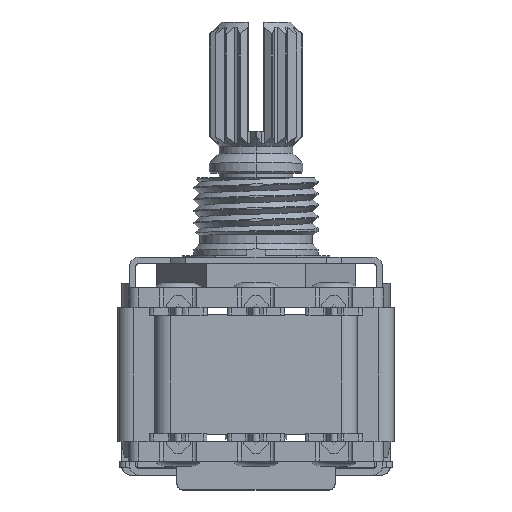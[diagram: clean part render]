
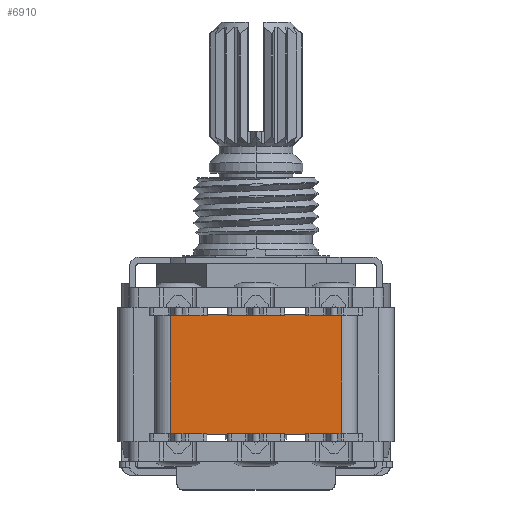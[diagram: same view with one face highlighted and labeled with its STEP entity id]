
A CAD part, top view. The second image highlights one B-rep face of the part: STEP entity #6910.
In plain terms, the highlighted planar face has unit normal (0, 0, 1).
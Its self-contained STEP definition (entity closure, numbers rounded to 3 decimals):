
#94 = DIRECTION ( 'NONE',  ( 0., 0., 1. ) ) ;
#1881 = CARTESIAN_POINT ( 'NONE',  ( 5.512, -0.79, 8.763 ) ) ;
#1953 = VECTOR ( 'NONE', #14270, 1000. ) ;
#3152 = ORIENTED_EDGE ( 'NONE', *, *, #10917, .T. ) ;
#3287 = EDGE_CURVE ( 'NONE', #13411, #14534, #17035, .T. ) ;
#3456 = VECTOR ( 'NONE', #8907, 1000. ) ;
#3533 = CARTESIAN_POINT ( 'NONE',  ( -5.512, -4.48, 8.763 ) ) ;
#3842 = LINE ( 'NONE', #1881, #3456 ) ;
#4016 = VECTOR ( 'NONE', #11899, 1000. ) ;
#4679 = VERTEX_POINT ( 'NONE', #13102 ) ;
#5514 = AXIS2_PLACEMENT_3D ( 'NONE', #22501, #94, #10594 ) ;
#6197 = ORIENTED_EDGE ( 'NONE', *, *, #18905, .F. ) ;
#6910 = ADVANCED_FACE ( 'NONE', ( #15666 ), #10490, .T. ) ;
#7771 = ORIENTED_EDGE ( 'NONE', *, *, #22349, .F. ) ;
#8907 = DIRECTION ( 'NONE',  ( 0., -1., 0. ) ) ;
#10490 = PLANE ( 'NONE',  #5514 ) ;
#10521 = ORIENTED_EDGE ( 'NONE', *, *, #3287, .T. ) ;
#10594 = DIRECTION ( 'NONE',  ( 1., 0., 0. ) ) ;
#10868 = VECTOR ( 'NONE', #20381, 1000. ) ;
#10917 = EDGE_CURVE ( 'NONE', #4679, #13411, #11435, .T. ) ;
#11435 = LINE ( 'NONE', #22511, #4016 ) ;
#11899 = DIRECTION ( 'NONE',  ( -1., 0., 0. ) ) ;
#13102 = CARTESIAN_POINT ( 'NONE',  ( 5.512, 3.231, 8.763 ) ) ;
#13411 = VERTEX_POINT ( 'NONE', #21179 ) ;
#14270 = DIRECTION ( 'NONE',  ( -1., 0., 0. ) ) ;
#14384 = LINE ( 'NONE', #19468, #1953 ) ;
#14534 = VERTEX_POINT ( 'NONE', #3533 ) ;
#15666 = FACE_OUTER_BOUND ( 'NONE', #19017, .T. ) ;
#16569 = CARTESIAN_POINT ( 'NONE',  ( -5.512, -0.79, 8.763 ) ) ;
#17035 = LINE ( 'NONE', #16569, #10868 ) ;
#18716 = CARTESIAN_POINT ( 'NONE',  ( 5.512, -4.48, 8.763 ) ) ;
#18905 = EDGE_CURVE ( 'NONE', #4679, #21539, #3842, .T. ) ;
#19017 = EDGE_LOOP ( 'NONE', ( #10521, #7771, #6197, #3152 ) ) ;
#19468 = CARTESIAN_POINT ( 'NONE',  ( 5.512, -4.48, 8.763 ) ) ;
#20381 = DIRECTION ( 'NONE',  ( 0., -1., 0. ) ) ;
#21179 = CARTESIAN_POINT ( 'NONE',  ( -5.512, 3.231, 8.763 ) ) ;
#21539 = VERTEX_POINT ( 'NONE', #18716 ) ;
#22349 = EDGE_CURVE ( 'NONE', #21539, #14534, #14384, .T. ) ;
#22501 = CARTESIAN_POINT ( 'NONE',  ( -5.512, -0.79, 8.763 ) ) ;
#22511 = CARTESIAN_POINT ( 'NONE',  ( 5.512, 3.231, 8.763 ) ) ;
